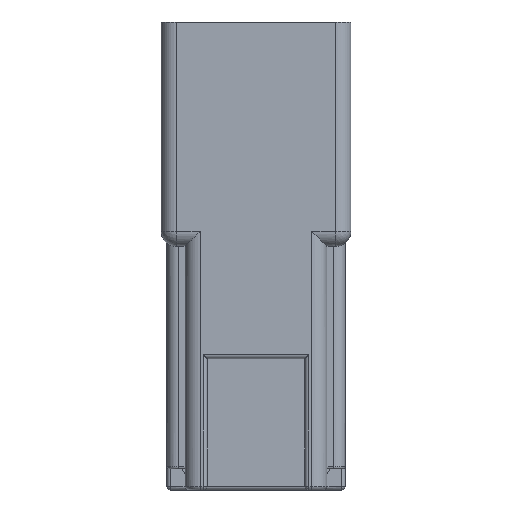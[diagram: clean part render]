
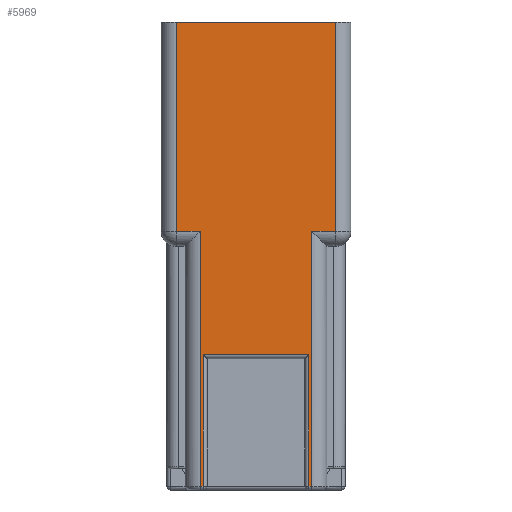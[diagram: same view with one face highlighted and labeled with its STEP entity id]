
A CAD part, front view. The second image highlights one B-rep face of the part: STEP entity #5969.
In plain terms, the highlighted planar face has unit normal (0, -1, 0).
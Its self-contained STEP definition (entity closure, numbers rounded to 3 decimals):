
#24=DIRECTION('',(1.,0.,0.));
#25=VECTOR('',#24,8.3);
#26=CARTESIAN_POINT('',(-4.15,-4.85,0.));
#27=LINE('',#26,#25);
#1818=DIRECTION('',(1.,0.,0.));
#1819=VECTOR('',#1818,1.25);
#1820=CARTESIAN_POINT('',(2.9,-4.85,-10.9));
#1821=LINE('',#1820,#1819);
#1961=DIRECTION('',(0.,0.,1.));
#1962=VECTOR('',#1961,13.3);
#1963=CARTESIAN_POINT('',(-2.9,-4.85,-24.2));
#1964=LINE('',#1963,#1962);
#1965=DIRECTION('',(0.,0.,-1.));
#1966=VECTOR('',#1965,10.9);
#1967=CARTESIAN_POINT('',(-4.15,-4.85,0.));
#1968=LINE('',#1967,#1966);
#1969=DIRECTION('',(0.,0.,-1.));
#1970=VECTOR('',#1969,10.9);
#1971=CARTESIAN_POINT('',(4.15,-4.85,0.));
#1972=LINE('',#1971,#1970);
#1973=DIRECTION('',(0.,0.,-1.));
#1974=VECTOR('',#1973,13.3);
#1975=CARTESIAN_POINT('',(2.9,-4.85,-10.9));
#1976=LINE('',#1975,#1974);
#1977=DIRECTION('',(-1.,0.,0.));
#1978=VECTOR('',#1977,0.15);
#1979=CARTESIAN_POINT('',(2.9,-4.85,-24.2));
#1980=LINE('',#1979,#1978);
#1981=DIRECTION('',(0.,0.,-1.));
#1982=VECTOR('',#1981,6.85);
#1983=CARTESIAN_POINT('',(2.75,-4.85,-17.35));
#1984=LINE('',#1983,#1982);
#1985=DIRECTION('',(1.,0.,0.));
#1986=VECTOR('',#1985,5.5);
#1987=CARTESIAN_POINT('',(-2.75,-4.85,-17.35));
#1988=LINE('',#1987,#1986);
#1989=DIRECTION('',(0.,0.,1.));
#1990=VECTOR('',#1989,6.85);
#1991=CARTESIAN_POINT('',(-2.75,-4.85,-24.2));
#1992=LINE('',#1991,#1990);
#1993=DIRECTION('',(-1.,0.,0.));
#1994=VECTOR('',#1993,0.15);
#1995=CARTESIAN_POINT('',(-2.75,-4.85,-24.2));
#1996=LINE('',#1995,#1994);
#2034=DIRECTION('',(1.,0.,0.));
#2035=VECTOR('',#2034,1.25);
#2036=CARTESIAN_POINT('',(-4.15,-4.85,-10.9));
#2037=LINE('',#2036,#2035);
#2779=CARTESIAN_POINT('',(4.15,-4.85,0.));
#2781=VERTEX_POINT('',#2779);
#2785=CARTESIAN_POINT('',(4.15,-4.85,-10.9));
#2786=VERTEX_POINT('',#2785);
#2820=CARTESIAN_POINT('',(-4.15,-4.85,0.));
#2822=VERTEX_POINT('',#2820);
#2823=CARTESIAN_POINT('',(-4.15,-4.85,-10.9));
#2824=VERTEX_POINT('',#2823);
#2873=CARTESIAN_POINT('',(-2.9,-4.85,-24.2));
#2874=CARTESIAN_POINT('',(-2.9,-4.85,-10.9));
#2875=VERTEX_POINT('',#2873);
#2876=VERTEX_POINT('',#2874);
#2915=CARTESIAN_POINT('',(2.9,-4.85,-10.9));
#2916=CARTESIAN_POINT('',(2.9,-4.85,-24.2));
#2917=VERTEX_POINT('',#2915);
#2918=VERTEX_POINT('',#2916);
#2937=CARTESIAN_POINT('',(-2.75,-4.85,-24.2));
#2938=CARTESIAN_POINT('',(-2.75,-4.85,-17.35));
#2939=VERTEX_POINT('',#2937);
#2940=VERTEX_POINT('',#2938);
#2947=CARTESIAN_POINT('',(2.75,-4.85,-17.35));
#2948=VERTEX_POINT('',#2947);
#2951=CARTESIAN_POINT('',(2.75,-4.85,-24.2));
#2952=VERTEX_POINT('',#2951);
#5943=CARTESIAN_POINT('',(-4.95,-4.85,0.));
#5944=DIRECTION('',(0.,-1.,0.));
#5945=DIRECTION('',(1.,0.,0.));
#5946=AXIS2_PLACEMENT_3D('',#5943,#5944,#5945);
#5947=PLANE('',#5946);
#5949=ORIENTED_EDGE('',*,*,#5948,.T.);
#5951=ORIENTED_EDGE('',*,*,#5950,.F.);
#5953=ORIENTED_EDGE('',*,*,#5952,.F.);
#5954=ORIENTED_EDGE('',*,*,#3504,.T.);
#5956=ORIENTED_EDGE('',*,*,#5955,.T.);
#5957=ORIENTED_EDGE('',*,*,#5718,.F.);
#5958=ORIENTED_EDGE('',*,*,#5732,.T.);
#5959=ORIENTED_EDGE('',*,*,#5851,.T.);
#5961=ORIENTED_EDGE('',*,*,#5960,.F.);
#5963=ORIENTED_EDGE('',*,*,#5962,.F.);
#5964=ORIENTED_EDGE('',*,*,#5933,.F.);
#5966=ORIENTED_EDGE('',*,*,#5965,.T.);
#5967=EDGE_LOOP('',(#5949,#5951,#5953,#5954,#5956,#5957,#5958,#5959,#5961,#5963,
#5964,#5966));
#5968=FACE_OUTER_BOUND('',#5967,.F.);
#5969=ADVANCED_FACE('',(#5968),#5947,.T.);
#3504=EDGE_CURVE('',#2822,#2781,#27,.T.);
#5718=EDGE_CURVE('',#2917,#2786,#1821,.T.);
#5732=EDGE_CURVE('',#2917,#2918,#1976,.T.);
#5851=EDGE_CURVE('',#2918,#2952,#1980,.T.);
#5933=EDGE_CURVE('',#2939,#2940,#1992,.T.);
#5948=EDGE_CURVE('',#2875,#2876,#1964,.T.);
#5950=EDGE_CURVE('',#2824,#2876,#2037,.T.);
#5952=EDGE_CURVE('',#2822,#2824,#1968,.T.);
#5955=EDGE_CURVE('',#2781,#2786,#1972,.T.);
#5960=EDGE_CURVE('',#2948,#2952,#1984,.T.);
#5962=EDGE_CURVE('',#2940,#2948,#1988,.T.);
#5965=EDGE_CURVE('',#2939,#2875,#1996,.T.);
